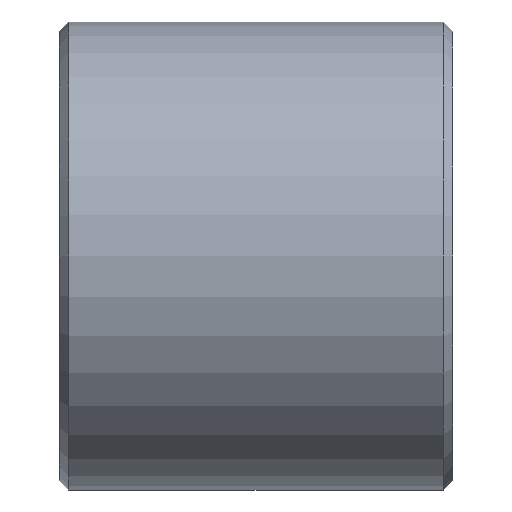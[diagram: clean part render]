
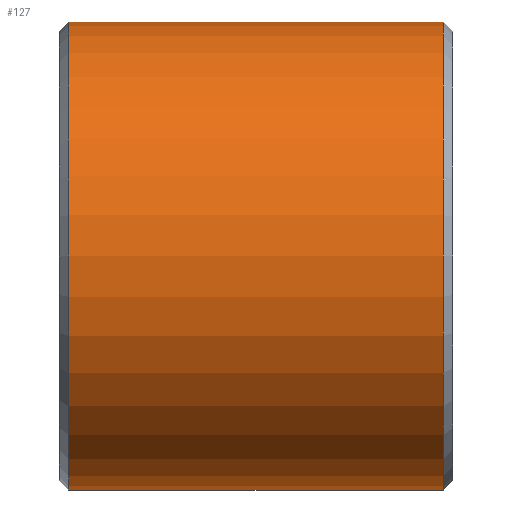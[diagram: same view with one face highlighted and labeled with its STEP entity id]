
A CAD part, front view. The second image highlights one B-rep face of the part: STEP entity #127.
In plain terms, the highlighted cylindrical face has radius 12.5 mm (diameter 25 mm), a full revolution.
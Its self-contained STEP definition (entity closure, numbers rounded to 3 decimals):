
#16=CYLINDRICAL_SURFACE('',#164,12.5);
#25=FACE_OUTER_BOUND('',#34,.T.);
#34=EDGE_LOOP('',(#102,#103,#104,#105,#106,#107));
#42=LINE('',#241,#48);
#48=VECTOR('',#203,12.5);
#55=CIRCLE('',#162,12.5);
#56=CIRCLE('',#163,12.5);
#57=CIRCLE('',#165,12.5);
#58=CIRCLE('',#166,12.5);
#65=VERTEX_POINT('',#231);
#66=VERTEX_POINT('',#233);
#67=VERTEX_POINT('',#237);
#68=VERTEX_POINT('',#238);
#78=EDGE_CURVE('',#65,#66,#55,.T.);
#79=EDGE_CURVE('',#66,#65,#56,.T.);
#80=EDGE_CURVE('',#67,#68,#57,.T.);
#81=EDGE_CURVE('',#68,#67,#58,.T.);
#82=EDGE_CURVE('',#68,#66,#42,.T.);
#102=ORIENTED_EDGE('',*,*,#80,.F.);
#103=ORIENTED_EDGE('',*,*,#81,.F.);
#104=ORIENTED_EDGE('',*,*,#82,.T.);
#105=ORIENTED_EDGE('',*,*,#78,.F.);
#106=ORIENTED_EDGE('',*,*,#79,.F.);
#107=ORIENTED_EDGE('',*,*,#82,.F.);
#127=ADVANCED_FACE('',(#25),#16,.T.);
#162=AXIS2_PLACEMENT_3D('',#234,#193,#194);
#163=AXIS2_PLACEMENT_3D('',#235,#195,#196);
#164=AXIS2_PLACEMENT_3D('',#236,#197,#198);
#165=AXIS2_PLACEMENT_3D('',#239,#199,#200);
#166=AXIS2_PLACEMENT_3D('',#240,#201,#202);
#193=DIRECTION('center_axis',(-1.,0.,0.));
#194=DIRECTION('ref_axis',(0.,-1.,0.));
#195=DIRECTION('center_axis',(-1.,0.,0.));
#196=DIRECTION('ref_axis',(0.,-1.,0.));
#197=DIRECTION('center_axis',(1.,0.,0.));
#198=DIRECTION('ref_axis',(0.,1.,0.));
#199=DIRECTION('center_axis',(1.,0.,0.));
#200=DIRECTION('ref_axis',(0.,-1.,0.));
#201=DIRECTION('center_axis',(1.,0.,0.));
#202=DIRECTION('ref_axis',(0.,-1.,0.));
#203=DIRECTION('',(-1.,0.,0.));
#231=CARTESIAN_POINT('',(-10.,12.5,0.));
#233=CARTESIAN_POINT('',(-10.,-12.5,0.));
#234=CARTESIAN_POINT('Origin',(-10.,0.,0.));
#235=CARTESIAN_POINT('Origin',(-10.,0.,0.));
#236=CARTESIAN_POINT('Origin',(0.,0.,0.));
#237=CARTESIAN_POINT('',(10.,12.5,0.));
#238=CARTESIAN_POINT('',(10.,-12.5,0.));
#239=CARTESIAN_POINT('Origin',(10.,0.,0.));
#240=CARTESIAN_POINT('Origin',(10.,0.,0.));
#241=CARTESIAN_POINT('',(0.,-12.5,0.));
